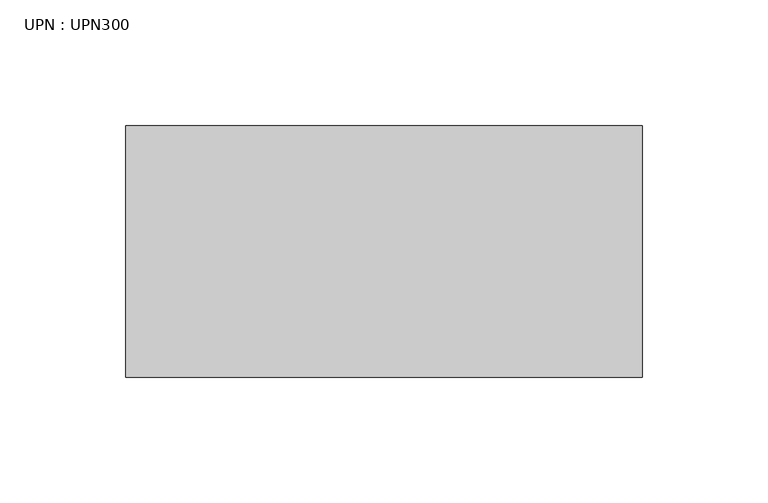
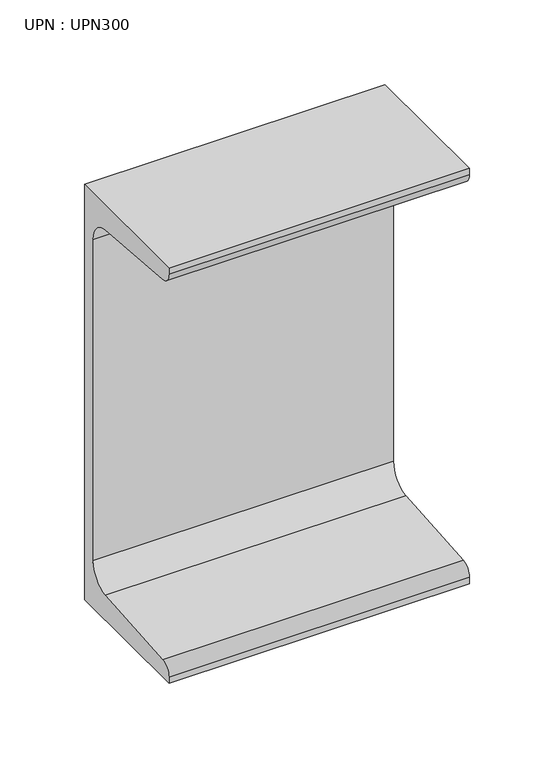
"""IFC4 building model written with IfcOpenShell, lengths in millimetres: beam geometry, UPN : UPN300."""

from ifc_helpers import new_model, si_unit, point, frame, frame_2d, origin, place, context, project, spatial, polyline, circle_curve, trimmed, segment, composite_curve, outline, extrude, source, transform, mapped, element, save


def upn_upn300_2e4f2b7c(model_context):
    return source(origin(), model_context, "Body", "SweptSolid", [
        extrude(outline(composite_curve([segment(polyline([(27.0, 150.0), (27.0, -150.0), (-73.0, -150.0), (-73.0, -145.3826224)]), True, "CONTINUOUS"), segment(trimmed(circle_curve(frame_2d((-65.0, -145.3826224)), 8.0), [point((-73.0, -145.3826224))], [point((-65.637416, -137.4080566))], False, "CARTESIAN"), True, "CONTINUOUS"), segment(polyline([(-65.637416, -137.4080566), (2.274832, -131.9797543)]), True, "CONTINUOUS"), segment(trimmed(circle_curve(frame_2d((1.0, -116.0306225)), 16.0), [point((2.274832, -131.9797543))], [point((17.0, -116.0306225))], True, "CARTESIAN"), True, "CONTINUOUS"), segment(polyline([(17.0, -116.0306225), (17.0, 116.0306225)]), True, "CONTINUOUS"), segment(trimmed(circle_curve(frame_2d((1.0, 116.0306225)), 16.0), [point((17.0, 116.0306225))], [point((2.274832, 131.9797543))], True, "CARTESIAN"), True, "CONTINUOUS"), segment(polyline([(2.274832, 131.9797543), (-65.637416, 137.4080566)]), True, "CONTINUOUS"), segment(trimmed(circle_curve(frame_2d((-65.0, 145.3826224)), 8.0), [point((-65.637416, 137.4080566))], [point((-73.0, 145.3826224))], False, "CARTESIAN"), True, "CONTINUOUS"), segment(polyline([(-73.0, 145.3826224), (-73.0, 150.0), (27.0, 150.0)]), True, "CONTINUOUS")], self_intersect=False)), frame((-88.5, 0.0, 0.0), z_axis=(1.0, 0.0, 0.0), x_axis=(0.0, 1.0, 0.0)), (0.0, 0.0, 1.0), 205.5),
    ])


if __name__ == "__main__":
    model = new_model("IFC4")
    model_context = context("Model", 3, world=origin())
    ifc_project = project(units=[si_unit("LENGTHUNIT", "METRE", prefix="MILLI")], contexts=[model_context])
    site = spatial("IfcSite", under=ifc_project)
    building = spatial("IfcBuilding", under=site)
    placement = place(None, origin())
    upn_upn300_shape = upn_upn300_2e4f2b7c(model_context)
    element("IfcBeam", 1, ObjectType="UPN : UPN300", at=placement, inside=building, context=model_context, shape_type="MappedRepresentation", body=[
        mapped(upn_upn300_shape, transform((0.0, 0.0, 0.0), x_axis=(1.0, 0.0, 0.0), y_axis=(0.0, 1.0, 0.0), z_axis=(0.0, 0.0, 1.0))),
    ])
    save(model, "model.ifc")
